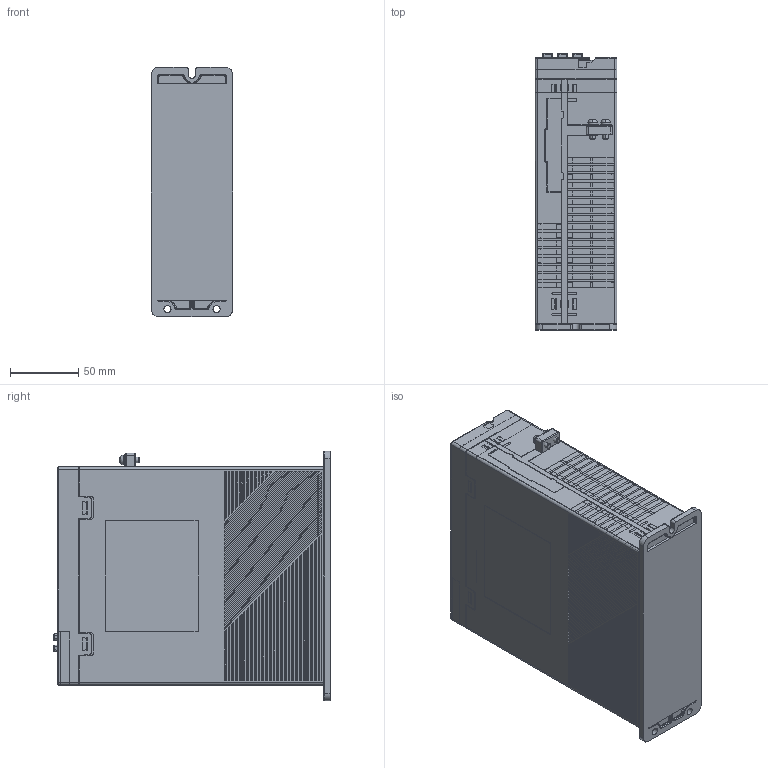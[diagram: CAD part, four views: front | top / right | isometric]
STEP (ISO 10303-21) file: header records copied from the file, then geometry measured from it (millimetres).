
FILE_DESCRIPTION((''),'2;1');
FILE_NAME('ASM0001_ASM','2024-04-22T15:16:15',('qiaolun'),(''),'CREO PARAMETRIC BY PTC INC, 2021063','CREO PARAMETRIC BY PTC INC, 2021063','');
FILE_SCHEMA(('CONFIG_CONTROL_DESIGN'));
Products named in the file (11): 2_2; 3_2; 4_2; 6_3; 7_2; 8_4; M4X12_1_1_2; 33_1; 1_ASM_2_ASM; BD3-C_ASM_2_ASM; ASM0001_ASM
Assembly tree (11 placements, depth 4):
  ASM0001_ASM
    BD3-C_ASM_2_ASM
      1_ASM_2_ASM
        2_2
        3_2
        4_2
        6_3
        7_2
        8_4
        M4X12_1_1_2  x2
        33_1
Bounding box: 60 x 202.86 x 183 mm (x, y, z)
Surface area: 314706.9 mm2
Topology: 9 solids, 10 shells, 3037 faces, 7852 edges, 5083 vertices
Faces by surface type: plane 2234, cylinder 370, cone 219, bspline 78, torus 50, extrusion 44, sphere 38, revolution 4
Entity records: 95426 total; most frequent: CARTESIAN_POINT 22638, ORIENTED_EDGE 15544, DIRECTION 13851, EDGE_CURVE 7772, VECTOR 6215, LINE 6171, VERTEX_POINT 5037, AXIS2_PLACEMENT_3D 3816
